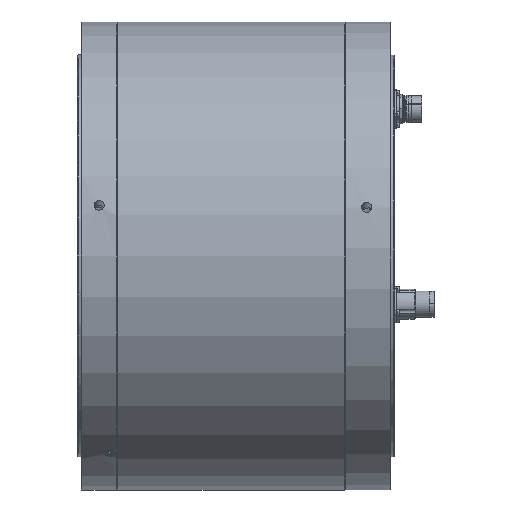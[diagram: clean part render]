
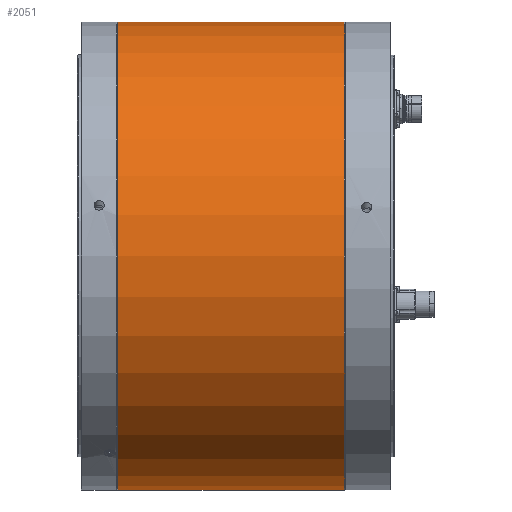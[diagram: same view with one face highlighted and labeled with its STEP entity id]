
A CAD part, front view. The second image highlights one B-rep face of the part: STEP entity #2051.
In plain terms, the highlighted cylindrical face has radius 195 mm (diameter 390 mm), a full revolution.
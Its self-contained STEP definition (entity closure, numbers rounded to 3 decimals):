
#2051 = ADVANCED_FACE( '', ( #4270, #4271 ), #4272, .T. );
#4270 = FACE_OUTER_BOUND( '', #6868, .T. );
#4271 = FACE_OUTER_BOUND( '', #6869, .T. );
#4272 = CYLINDRICAL_SURFACE( '', #6870, 195. );
#6868 = EDGE_LOOP( '', ( #10899 ) );
#6869 = EDGE_LOOP( '', ( #10900 ) );
#6870 = AXIS2_PLACEMENT_3D( '', #10901, #10902, #10903 );
#10899 = ORIENTED_EDGE( '', *, *, #13939, .T. );
#10900 = ORIENTED_EDGE( '', *, *, #13917, .T. );
#10901 = CARTESIAN_POINT( '', ( -60., 0., 0. ) );
#10902 = DIRECTION( '', ( 1., 0., 0. ) );
#10903 = DIRECTION( '', ( 0., 0., 1. ) );
#13917 = EDGE_CURVE( '', #17242, #17242, #17243, .F. );
#13939 = EDGE_CURVE( '', #17274, #17274, #17275, .F. );
#17242 = VERTEX_POINT( '', #20497 );
#17243 = CIRCLE( '', #20498, 195. );
#17274 = VERTEX_POINT( '', #20529 );
#17275 = CIRCLE( '', #20530, 195. );
#20497 = CARTESIAN_POINT( '', ( 189.5, 0., -195. ) );
#20498 = AXIS2_PLACEMENT_3D( '', #23290, #23291, #23292 );
#20529 = CARTESIAN_POINT( '', ( 0.5, 0., 195. ) );
#20530 = AXIS2_PLACEMENT_3D( '', #23323, #23324, #23325 );
#23290 = CARTESIAN_POINT( '', ( 189.5, 0., 0. ) );
#23291 = DIRECTION( '', ( 1., 0., 0. ) );
#23292 = DIRECTION( '', ( 0., 0., -1. ) );
#23323 = CARTESIAN_POINT( '', ( 0.5, 0., 0. ) );
#23324 = DIRECTION( '', ( -1., 0., 0. ) );
#23325 = DIRECTION( '', ( 0., 0., 1. ) );
